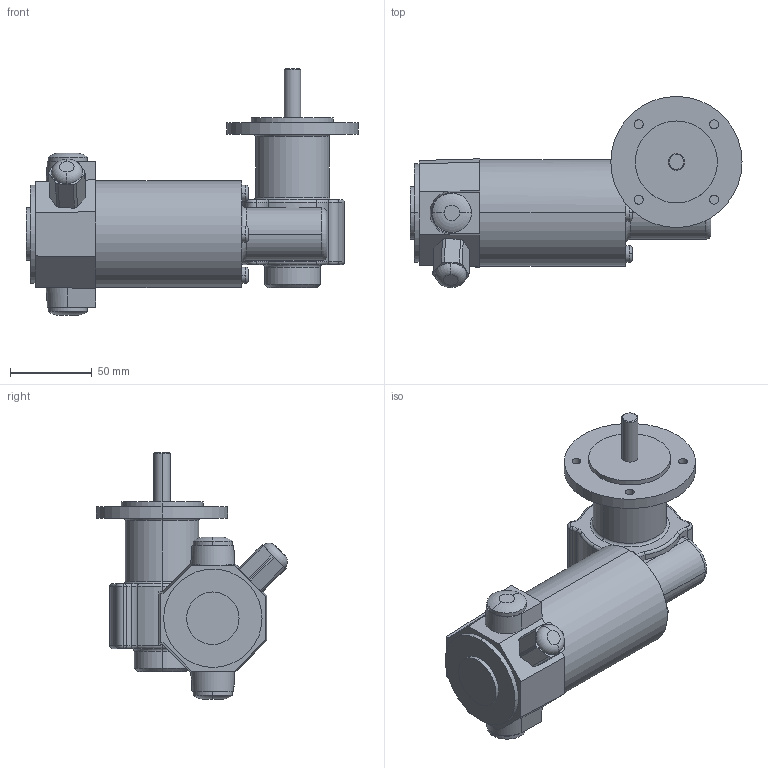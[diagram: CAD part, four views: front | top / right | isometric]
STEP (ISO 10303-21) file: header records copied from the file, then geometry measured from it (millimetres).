
FILE_DESCRIPTION(('OneSpaceDesigner STEP Export'),'2;1');
FILE_NAME('EPG02_GF126.stp','2008-07-02T14:08:44',(''),(''),'OneSpace Designer STEP processor (Jan. 2003) for AP214(CD)(Solid Model)','OneSpace Designer 12.01D 09-Jul-2004 (C) CoCreate Software GmbH','');
FILE_SCHEMA(('AUTOMOTIVE_DESIGN_CC2 {1 2 10303 214 -1 1 5 1}'));
Length unit declared in the file: millimetre
Products named in the file (2): EPG02_GF126
Assembly tree (1 placements, depth 2):
  EPG02_GF126
    EPG02_GF126
Bounding box: 202.5 x 116.58 x 150.5 mm (x, y, z)
Volume: 743680.8 mm3; surface area: 70327.5 mm2
Topology: 1 solids, 1 shells, 209 faces, 503 edges, 311 vertices
Faces by surface type: cylinder 83, torus 72, plane 48, cone 4, bspline 2
Entity records: 7687 total; most frequent: CARTESIAN_POINT 3197, ORIENTED_EDGE 1006, DIRECTION 870, EDGE_CURVE 503, AXIS2_PLACEMENT_3D 357, VERTEX_POINT 311, EDGE_LOOP 232, CIRCLE 214
